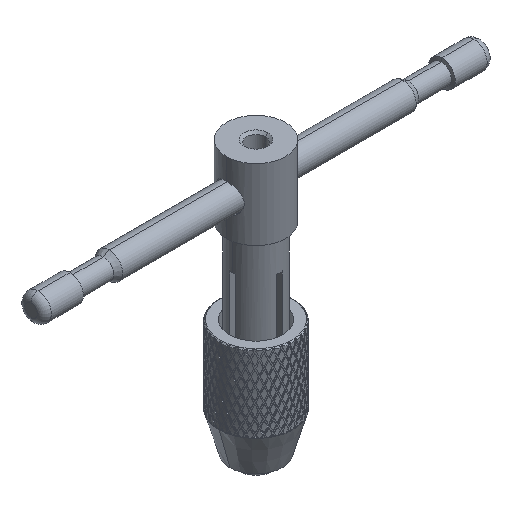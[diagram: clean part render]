
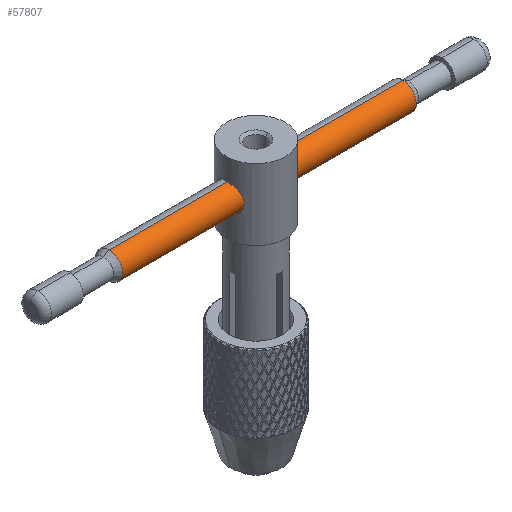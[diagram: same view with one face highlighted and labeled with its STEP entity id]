
A CAD part, isometric view. The second image highlights one B-rep face of the part: STEP entity #57807.
In plain terms, the highlighted cylindrical face has radius 2.857 mm (diameter 5.715 mm), a partial arc.
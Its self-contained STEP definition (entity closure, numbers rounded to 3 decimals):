
#2385 = ORIENTED_EDGE ( 'NONE', *, *, #54985, .T. ) ;
#8616 = EDGE_LOOP ( 'NONE', ( #36047, #53619, #2385, #12666 ) ) ;
#10066 = CARTESIAN_POINT ( 'NONE',  ( 31.496, 0., -7.62 ) ) ;
#10777 = EDGE_CURVE ( 'NONE', #39356, #49109, #18910, .T. ) ;
#12113 = DIRECTION ( 'NONE',  ( -1., 0., 0. ) ) ;
#12666 = ORIENTED_EDGE ( 'NONE', *, *, #57751, .T. ) ;
#16206 = VECTOR ( 'NONE', #55276, 1000. ) ;
#16778 = CARTESIAN_POINT ( 'NONE',  ( -31.496, 0., -7.62 ) ) ;
#18910 = LINE ( 'NONE', #45437, #59927 ) ;
#22613 = CARTESIAN_POINT ( 'NONE',  ( -31.496, 0., -4.762 ) ) ;
#24460 = CARTESIAN_POINT ( 'NONE',  ( 31.496, 0., -4.763 ) ) ;
#28059 = DIRECTION ( 'NONE',  ( 0., 0., 1. ) ) ;
#30499 = LINE ( 'NONE', #33566, #16206 ) ;
#31169 = FACE_OUTER_BOUND ( 'NONE', #8616, .T. ) ;
#31243 = AXIS2_PLACEMENT_3D ( 'NONE', #16778, #12113, #28059 ) ;
#32459 = AXIS2_PLACEMENT_3D ( 'NONE', #42378, #47762, #52875 ) ;
#33566 = CARTESIAN_POINT ( 'NONE',  ( -48.26, 0., -10.477 ) ) ;
#33723 = CYLINDRICAL_SURFACE ( 'NONE', #32459, 2.857 ) ;
#36047 = ORIENTED_EDGE ( 'NONE', *, *, #10777, .F. ) ;
#38942 = EDGE_CURVE ( 'NONE', #45947, #39356, #68955, .T. ) ;
#39356 = VERTEX_POINT ( 'NONE', #22613 ) ;
#42378 = CARTESIAN_POINT ( 'NONE',  ( -48.26, 0., -7.62 ) ) ;
#44110 = CARTESIAN_POINT ( 'NONE',  ( -31.496, 0., -10.477 ) ) ;
#45437 = CARTESIAN_POINT ( 'NONE',  ( -48.26, 0., -4.762 ) ) ;
#45947 = VERTEX_POINT ( 'NONE', #44110 ) ;
#46349 = CARTESIAN_POINT ( 'NONE',  ( 31.496, 0., -10.477 ) ) ;
#47762 = DIRECTION ( 'NONE',  ( 1., 0., 0. ) ) ;
#49109 = VERTEX_POINT ( 'NONE', #24460 ) ;
#52875 = DIRECTION ( 'NONE',  ( 0., 0., -1. ) ) ;
#53619 = ORIENTED_EDGE ( 'NONE', *, *, #38942, .F. ) ;
#54985 = EDGE_CURVE ( 'NONE', #45947, #57315, #30499, .T. ) ;
#55276 = DIRECTION ( 'NONE',  ( 1., 0., 0. ) ) ;
#55753 = DIRECTION ( 'NONE',  ( 1., 0., 0. ) ) ;
#56220 = AXIS2_PLACEMENT_3D ( 'NONE', #10066, #57823, #58046 ) ;
#56312 = CIRCLE ( 'NONE', #56220, 2.857 ) ;
#57315 = VERTEX_POINT ( 'NONE', #46349 ) ;
#57751 = EDGE_CURVE ( 'NONE', #57315, #49109, #56312, .T. ) ;
#57807 = ADVANCED_FACE ( 'NONE', ( #31169 ), #33723, .T. ) ;
#57823 = DIRECTION ( 'NONE',  ( -1., 0., 0. ) ) ;
#58046 = DIRECTION ( 'NONE',  ( 0., 0., 1. ) ) ;
#59927 = VECTOR ( 'NONE', #55753, 1000. ) ;
#68955 = CIRCLE ( 'NONE', #31243, 2.857 ) ;
